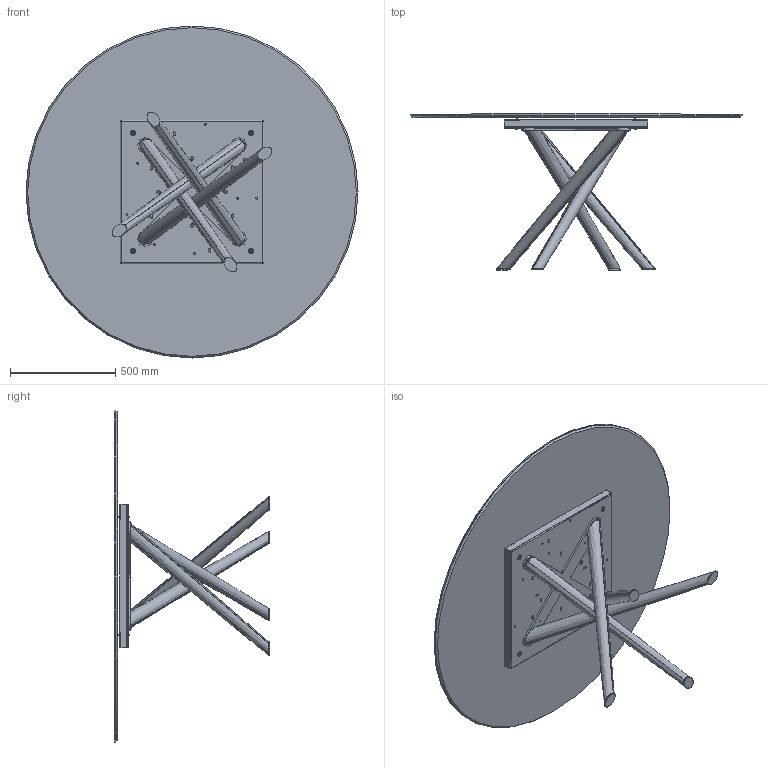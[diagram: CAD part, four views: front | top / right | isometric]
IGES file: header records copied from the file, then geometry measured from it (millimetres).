
Start section: SolidWorks IGES file using analytic representation for surfaces
Global section: file name: Y:\eforma\TECNICO\SOLIDWORKS\E-FORMA\1-TAVOLI\BALY\02 parts\BA07C.IGS; native system: SolidWorks 2022; preprocessor: SolidWorks 2022; author: eforma.tech; date: 240808.083528; units: millimetre
Bounding box: 1580 x 741 x 1580 mm (x, y, z)
Volume: 35890258.6 mm3; surface area: 10711622.9 mm2
Topology: 24 solids, 24 shells, 691 faces, 1771 edges, 1124 vertices
Faces by surface type: revolution 371, plane 312, bspline 8
